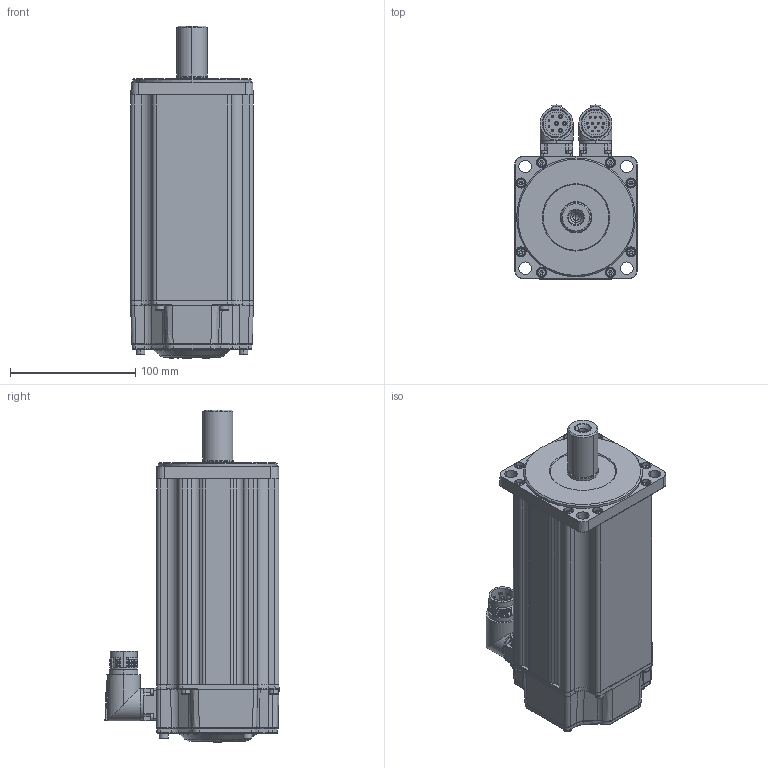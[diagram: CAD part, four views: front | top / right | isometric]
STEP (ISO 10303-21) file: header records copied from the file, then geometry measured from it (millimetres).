
FILE_DESCRIPTION (( 'STEP AP203' ), '1' );
FILE_NAME ('MC20-100-3L30-N202-1¡õPL-NNNN.STEP', '2025-07-29T14:47:33', ( '' ), ( '' ), 'SwSTEP 2.0', 'SolidWorks 2014', '' );
FILE_SCHEMA (( 'CONFIG_CONTROL_DESIGN' ));
Products named in the file (1): MC20-100-3L30-N202-1¡õPL-NNNN
Bounding box: 98.04 x 139.27 x 265.49 mm (x, y, z)
Volume: 2008940.8 mm3; surface area: 215547.3 mm2
Topology: 31 solids, 31 shells, 2062 faces, 4785 edges, 2837 vertices
Faces by surface type: plane 759, cylinder 542, cone 363, bspline 211, torus 182, sphere 5
Entity records: 64362 total; most frequent: CARTESIAN_POINT 18685, DIRECTION 9633, ORIENTED_EDGE 9382, EDGE_CURVE 4691, AXIS2_PLACEMENT_3D 3761, VERTEX_POINT 2837, EDGE_LOOP 2280, VECTOR 2111
